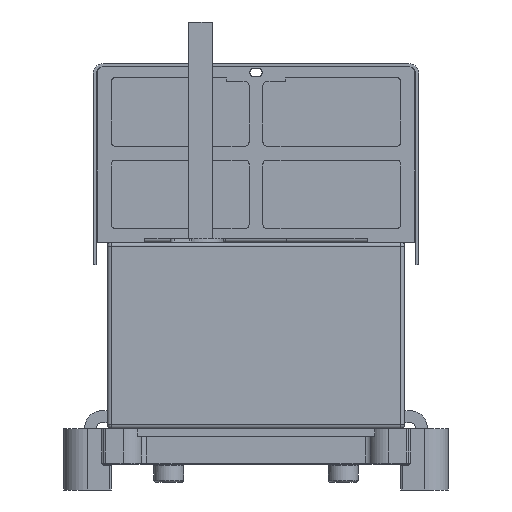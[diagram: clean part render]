
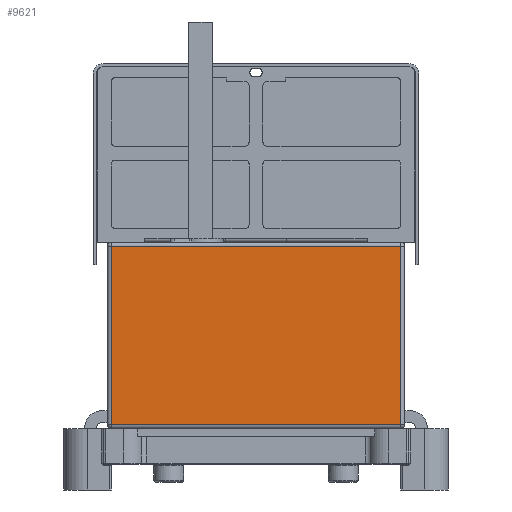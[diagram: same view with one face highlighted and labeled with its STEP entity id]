
A CAD part, left-side view. The second image highlights one B-rep face of the part: STEP entity #9621.
In plain terms, the highlighted planar face has unit normal (-1, 0, 0).
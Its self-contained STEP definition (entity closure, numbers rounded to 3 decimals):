
#2928=LINE('',#50869,#5720);
#2933=LINE('',#50890,#5725);
#2936=LINE('',#50913,#5728);
#2943=LINE('',#50923,#5735);
#5720=VECTOR('',#39249,1.);
#5725=VECTOR('',#39274,1.);
#5728=VECTOR('',#39303,1.);
#5735=VECTOR('',#39316,1.);
#6676=PLANE('',#31417);
#8067=FACE_OUTER_BOUND('',#12463,.T.);
#9621=ADVANCED_FACE('',(#8067),#6676,.F.);
#12463=EDGE_LOOP('',(#19934,#19935,#19936,#19937));
#19934=ORIENTED_EDGE('',*,*,#27487,.T.);
#19935=ORIENTED_EDGE('',*,*,#27469,.T.);
#19936=ORIENTED_EDGE('',*,*,#27480,.T.);
#19937=ORIENTED_EDGE('',*,*,#27458,.T.);
#23487=VERTEX_POINT('',#50855);
#23491=VERTEX_POINT('',#50866);
#23496=VERTEX_POINT('',#50883);
#23497=VERTEX_POINT('',#50887);
#27458=EDGE_CURVE('',#23491,#23487,#2928,.T.);
#27469=EDGE_CURVE('',#23497,#23496,#2933,.T.);
#27480=EDGE_CURVE('',#23496,#23491,#2936,.T.);
#27487=EDGE_CURVE('',#23487,#23497,#2943,.T.);
#31417=AXIS2_PLACEMENT_3D('',#50976,#39361,#39362);
#39249=DIRECTION('',(0.,1.,0.));
#39274=DIRECTION('',(0.,-1.,0.));
#39303=DIRECTION('',(0.,0.,1.));
#39316=DIRECTION('',(0.,0.,-1.));
#39361=DIRECTION('',(1.,0.,0.));
#39362=DIRECTION('',(0.,1.,0.));
#50855=CARTESIAN_POINT('',(-150.,73.,92.));
#50866=CARTESIAN_POINT('',(-150.,-73.,92.));
#50869=CARTESIAN_POINT('',(-150.,73.,92.));
#50883=CARTESIAN_POINT('',(-150.,-73.,2.));
#50887=CARTESIAN_POINT('',(-150.,73.,2.));
#50890=CARTESIAN_POINT('',(-150.,75.,2.));
#50913=CARTESIAN_POINT('',(-150.,-73.,94.));
#50923=CARTESIAN_POINT('',(-150.,73.,94.));
#50976=CARTESIAN_POINT('',(-150.,75.,94.));
